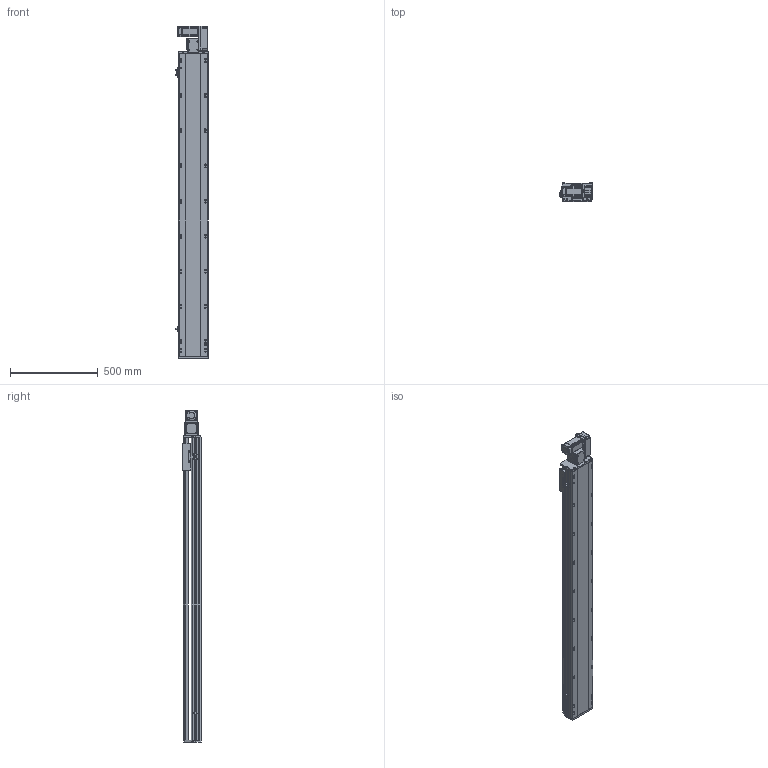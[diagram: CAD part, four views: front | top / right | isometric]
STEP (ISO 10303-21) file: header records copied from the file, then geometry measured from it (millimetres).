
FILE_DESCRIPTION (( 'STEP AP214' ), '1' );
FILE_NAME ('RTB17S-XX-1450-R-M40-C4.STEP', '2025-12-11T07:40:40', ( '' ), ( '' ), 'SwSTEP 2.0', 'SolidWorks 2018', '' );
FILE_SCHEMA (( 'AUTOMOTIVE_DESIGN' ));
Length unit declared in the file: millimetre
Products named in the file (14): RTB14-L-017P^RTB17S-R-々湍釱蚾饜-400W_RTB17S-XX-XX-R-M40-C4; RTB14-L-005P--轴承塑胶压盖^RTB17S-R-皮带座装配-400W_RTB17S-XX-XX-R-M40-C4; RTH13-BL-012覜茼え俋离^RTB17S-XX-XX-R-M40-C4; 400W侜督萇儂^RTB17S-XX-XX-R-M40-C4; RTB17S-L-007奻裔^RTB17S-XX-XX-R-M40-C4; RTB17S-L-014-T20--々湍釱^RTB17S-R-々湍釱蚾饜-400W_RTB17S-XX-XX-R-M40-C4; OMRON EE-SX672 传感器^RTB17S-XX-XX-R-M40-C4; RTB17S-R-々湍釱蚾饜-400W^RTB17S-XX-XX-R-M40-C4; RTB17S-L-004佪裝蹟譫蟀諉釱^RTB17S-XX-XX-R-M40-C4; RTB17S-XX-1450-R-M40-C4; RTB17-R-011菁釱^RTB17S-XX-XX-R-M40-C4; RTB14-L-008-M20--萇儂啣^RTB17S-R-々湍釱蚾饜-400W_RTB17S-XX-XX-R-M40-C4; RTB17S-L-001耜醱啣^RTB17S-XX-XX-R-M40-C4; RTB14-L-018P^RTB17S-R-々湍釱蚾饜-400W_RTB17S-XX-XX-R-M40-C4
Assembly tree (16 placements, depth 3):
  RTB17S-XX-1450-R-M40-C4
    RTB17-R-011菁釱^RTB17S-XX-XX-R-M40-C4
    RTB17S-L-007奻裔^RTB17S-XX-XX-R-M40-C4
    OMRON EE-SX672 传感器^RTB17S-XX-XX-R-M40-C4  x3
    RTB17S-L-001耜醱啣^RTB17S-XX-XX-R-M40-C4
    400W侜督萇儂^RTB17S-XX-XX-R-M40-C4
    RTB17S-L-004佪裝蹟譫蟀諉釱^RTB17S-XX-XX-R-M40-C4
    RTH13-BL-012覜茼え俋离^RTB17S-XX-XX-R-M40-C4
    RTB17S-R-々湍釱蚾饜-400W^RTB17S-XX-XX-R-M40-C4
      RTB17S-L-014-T20--々湍釱^RTB17S-R-々湍釱蚾饜-400W_RTB17S-XX-XX-R-M40-C4
      RTB14-L-005P--轴承塑胶压盖^RTB17S-R-皮带座装配-400W_RTB17S-XX-XX-R-M40-C4
      RTB14-L-008-M20--萇儂啣^RTB17S-R-々湍釱蚾饜-400W_RTB17S-XX-XX-R-M40-C4
      RTB14-L-017P^RTB17S-R-々湍釱蚾饜-400W_RTB17S-XX-XX-R-M40-C4  x2
      RTB14-L-018P^RTB17S-R-々湍釱蚾饜-400W_RTB17S-XX-XX-R-M40-C4
Bounding box: 183.5 x 108 x 1891 mm (x, y, z)
Volume: 16038831.2 mm3; surface area: 1900044.6 mm2
Topology: 15 solids, 15 shells, 2253 faces, 6249 edges, 4077 vertices
Faces by surface type: plane 1074, cylinder 731, bspline 301, cone 139, torus 8
Entity records: 64937 total; most frequent: CARTESIAN_POINT 18254, ORIENTED_EDGE 9342, DIRECTION 8666, EDGE_CURVE 4671, VERTEX_POINT 3065, AXIS2_PLACEMENT_3D 2995, VECTOR 2676, LINE 2676
